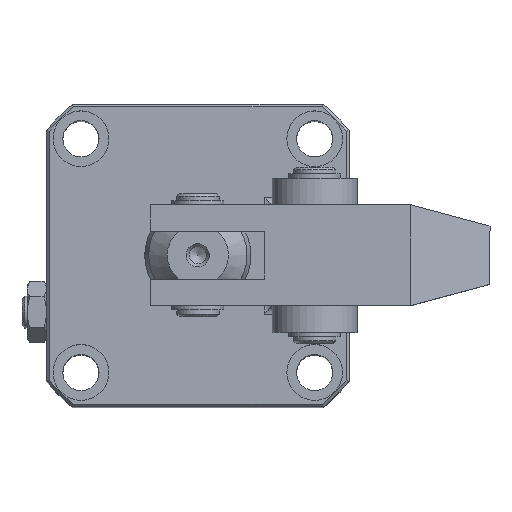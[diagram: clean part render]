
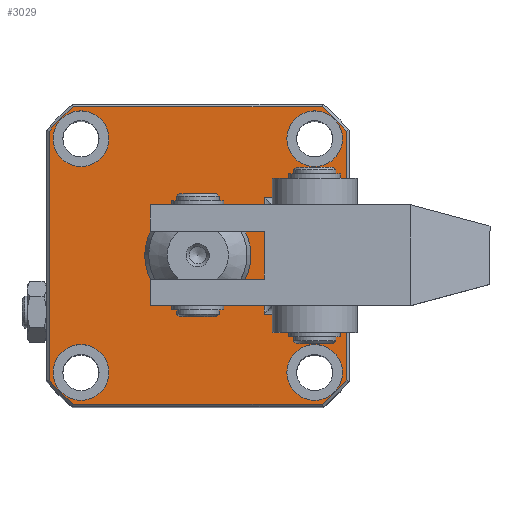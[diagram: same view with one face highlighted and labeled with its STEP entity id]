
A CAD part, top view. The second image highlights one B-rep face of the part: STEP entity #3029.
In plain terms, the highlighted planar face has unit normal (0, 0, 1).
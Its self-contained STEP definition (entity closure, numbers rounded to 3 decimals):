
#226=CIRCLE('',#3330,5.25);
#227=CIRCLE('',#3331,5.25);
#228=CIRCLE('',#3332,5.25);
#229=CIRCLE('',#3333,5.25);
#230=CIRCLE('',#3334,10.);
#231=CIRCLE('',#3335,36.5);
#232=CIRCLE('',#3336,36.5);
#233=CIRCLE('',#3337,36.5);
#234=CIRCLE('',#3338,36.5);
#375=PLANE('',#3329);
#481=LINE('',#4664,#644);
#482=LINE('',#4667,#645);
#483=LINE('',#4669,#646);
#484=LINE('',#4673,#647);
#485=LINE('',#4677,#648);
#486=LINE('',#4681,#649);
#487=LINE('',#4685,#650);
#488=LINE('',#4687,#651);
#644=VECTOR('',#3738,1000.);
#645=VECTOR('',#3739,1000.);
#646=VECTOR('',#3740,1000.);
#647=VECTOR('',#3743,1000.);
#648=VECTOR('',#3746,1000.);
#649=VECTOR('',#3749,1000.);
#650=VECTOR('',#3752,1000.);
#651=VECTOR('',#3753,1000.);
#812=ORIENTED_EDGE('',*,*,#1635,.F.);
#813=ORIENTED_EDGE('',*,*,#1636,.F.);
#814=ORIENTED_EDGE('',*,*,#1637,.F.);
#815=ORIENTED_EDGE('',*,*,#1638,.F.);
#816=ORIENTED_EDGE('',*,*,#1639,.T.);
#817=ORIENTED_EDGE('',*,*,#1640,.T.);
#818=ORIENTED_EDGE('',*,*,#1641,.T.);
#819=ORIENTED_EDGE('',*,*,#1642,.T.);
#820=ORIENTED_EDGE('',*,*,#1643,.T.);
#821=ORIENTED_EDGE('',*,*,#1644,.T.);
#822=ORIENTED_EDGE('',*,*,#1645,.T.);
#823=ORIENTED_EDGE('',*,*,#1646,.T.);
#824=ORIENTED_EDGE('',*,*,#1647,.T.);
#825=ORIENTED_EDGE('',*,*,#1648,.T.);
#826=ORIENTED_EDGE('',*,*,#1649,.T.);
#827=ORIENTED_EDGE('',*,*,#1650,.T.);
#828=ORIENTED_EDGE('',*,*,#1651,.T.);
#1635=EDGE_CURVE('',#2046,#2046,#226,.T.);
#1636=EDGE_CURVE('',#2047,#2047,#227,.T.);
#1637=EDGE_CURVE('',#2048,#2048,#228,.T.);
#1638=EDGE_CURVE('',#2049,#2049,#229,.T.);
#1639=EDGE_CURVE('',#2050,#2050,#230,.T.);
#1640=EDGE_CURVE('',#2051,#2052,#481,.T.);
#1641=EDGE_CURVE('',#2052,#2053,#482,.T.);
#1642=EDGE_CURVE('',#2053,#2054,#483,.T.);
#1643=EDGE_CURVE('',#2054,#2055,#231,.T.);
#1644=EDGE_CURVE('',#2055,#2056,#484,.T.);
#1645=EDGE_CURVE('',#2056,#2057,#232,.T.);
#1646=EDGE_CURVE('',#2057,#2058,#485,.T.);
#1647=EDGE_CURVE('',#2058,#2059,#233,.T.);
#1648=EDGE_CURVE('',#2059,#2060,#486,.T.);
#1649=EDGE_CURVE('',#2060,#2061,#234,.T.);
#1650=EDGE_CURVE('',#2061,#2062,#487,.T.);
#1651=EDGE_CURVE('',#2062,#2051,#488,.T.);
#2046=VERTEX_POINT('',#4655);
#2047=VERTEX_POINT('',#4657);
#2048=VERTEX_POINT('',#4659);
#2049=VERTEX_POINT('',#4661);
#2050=VERTEX_POINT('',#4663);
#2051=VERTEX_POINT('',#4665);
#2052=VERTEX_POINT('',#4666);
#2053=VERTEX_POINT('',#4668);
#2054=VERTEX_POINT('',#4670);
#2055=VERTEX_POINT('',#4672);
#2056=VERTEX_POINT('',#4674);
#2057=VERTEX_POINT('',#4676);
#2058=VERTEX_POINT('',#4678);
#2059=VERTEX_POINT('',#4680);
#2060=VERTEX_POINT('',#4682);
#2061=VERTEX_POINT('',#4684);
#2062=VERTEX_POINT('',#4686);
#2335=EDGE_LOOP('',(#812));
#2336=EDGE_LOOP('',(#813));
#2337=EDGE_LOOP('',(#814));
#2338=EDGE_LOOP('',(#815));
#2339=EDGE_LOOP('',(#816));
#2340=EDGE_LOOP('',(#817,#818,#819,#820,#821,#822,#823,#824,#825,#826,#827,
#828));
#2648=FACE_BOUND('',#2335,.T.);
#2649=FACE_BOUND('',#2336,.T.);
#2650=FACE_BOUND('',#2337,.T.);
#2651=FACE_BOUND('',#2338,.T.);
#2652=FACE_BOUND('',#2339,.T.);
#2653=FACE_BOUND('',#2340,.T.);
#3029=ADVANCED_FACE('',(#2648,#2649,#2650,#2651,#2652,#2653),#375,.T.);
#3329=AXIS2_PLACEMENT_3D('',#4653,#3726,#3727);
#3330=AXIS2_PLACEMENT_3D('',#4654,#3728,#3729);
#3331=AXIS2_PLACEMENT_3D('',#4656,#3730,#3731);
#3332=AXIS2_PLACEMENT_3D('',#4658,#3732,#3733);
#3333=AXIS2_PLACEMENT_3D('',#4660,#3734,#3735);
#3334=AXIS2_PLACEMENT_3D('',#4662,#3736,#3737);
#3335=AXIS2_PLACEMENT_3D('',#4671,#3741,#3742);
#3336=AXIS2_PLACEMENT_3D('',#4675,#3744,#3745);
#3337=AXIS2_PLACEMENT_3D('',#4679,#3747,#3748);
#3338=AXIS2_PLACEMENT_3D('',#4683,#3750,#3751);
#3726=DIRECTION('',(0.,0.,1.));
#3727=DIRECTION('',(0.,-1.,0.));
#3728=DIRECTION('',(0.,0.,1.));
#3729=DIRECTION('',(1.,0.,0.));
#3730=DIRECTION('',(0.,0.,1.));
#3731=DIRECTION('',(1.,0.,0.));
#3732=DIRECTION('',(0.,0.,1.));
#3733=DIRECTION('',(1.,0.,0.));
#3734=DIRECTION('',(0.,0.,1.));
#3735=DIRECTION('',(1.,0.,0.));
#3736=DIRECTION('',(0.,0.,-1.));
#3737=DIRECTION('',(0.,-1.,0.));
#3738=DIRECTION('',(0.,1.,0.));
#3739=DIRECTION('',(1.,0.,0.));
#3740=DIRECTION('',(0.,1.,0.));
#3741=DIRECTION('',(0.,0.,1.));
#3742=DIRECTION('',(0.,-1.,0.));
#3743=DIRECTION('',(-1.,0.,0.));
#3744=DIRECTION('',(0.,0.,1.));
#3745=DIRECTION('',(0.,-1.,0.));
#3746=DIRECTION('',(0.,-1.,0.));
#3747=DIRECTION('',(0.,0.,1.));
#3748=DIRECTION('',(0.,-1.,0.));
#3749=DIRECTION('',(1.,0.,0.));
#3750=DIRECTION('',(0.,0.,1.));
#3751=DIRECTION('',(0.,-1.,0.));
#3752=DIRECTION('',(0.,1.,0.));
#3753=DIRECTION('',(-1.,0.,0.));
#4653=CARTESIAN_POINT('',(0.,0.,85.));
#4654=CARTESIAN_POINT('',(-22.,22.,85.));
#4655=CARTESIAN_POINT('',(-16.75,22.,85.));
#4656=CARTESIAN_POINT('',(-22.,-22.,85.));
#4657=CARTESIAN_POINT('',(-16.75,-22.,85.));
#4658=CARTESIAN_POINT('',(22.,-22.,85.));
#4659=CARTESIAN_POINT('',(27.25,-22.,85.));
#4660=CARTESIAN_POINT('',(22.,22.,85.));
#4661=CARTESIAN_POINT('',(27.25,22.,85.));
#4662=CARTESIAN_POINT('',(0.,0.,85.));
#4663=CARTESIAN_POINT('',(0.,-10.,85.));
#4664=CARTESIAN_POINT('',(12.5,9.5,85.));
#4665=CARTESIAN_POINT('',(12.5,-11.,85.));
#4666=CARTESIAN_POINT('',(12.5,11.,85.));
#4667=CARTESIAN_POINT('',(28.,11.,85.));
#4668=CARTESIAN_POINT('',(28.,11.,85.));
#4669=CARTESIAN_POINT('',(28.,0.,85.));
#4670=CARTESIAN_POINT('',(28.,23.415,85.));
#4671=CARTESIAN_POINT('',(0.,0.,85.));
#4672=CARTESIAN_POINT('',(23.415,28.,85.));
#4673=CARTESIAN_POINT('',(0.,28.,85.));
#4674=CARTESIAN_POINT('',(-23.415,28.,85.));
#4675=CARTESIAN_POINT('',(0.,0.,85.));
#4676=CARTESIAN_POINT('',(-28.,23.415,85.));
#4677=CARTESIAN_POINT('',(-28.,0.,85.));
#4678=CARTESIAN_POINT('',(-28.,-23.415,85.));
#4679=CARTESIAN_POINT('',(0.,0.,85.));
#4680=CARTESIAN_POINT('',(-23.415,-28.,85.));
#4681=CARTESIAN_POINT('',(0.,-28.,85.));
#4682=CARTESIAN_POINT('',(23.415,-28.,85.));
#4683=CARTESIAN_POINT('',(0.,0.,85.));
#4684=CARTESIAN_POINT('',(28.,-23.415,85.));
#4685=CARTESIAN_POINT('',(28.,0.,85.));
#4686=CARTESIAN_POINT('',(28.,-11.,85.));
#4687=CARTESIAN_POINT('',(0.,-11.,85.));
